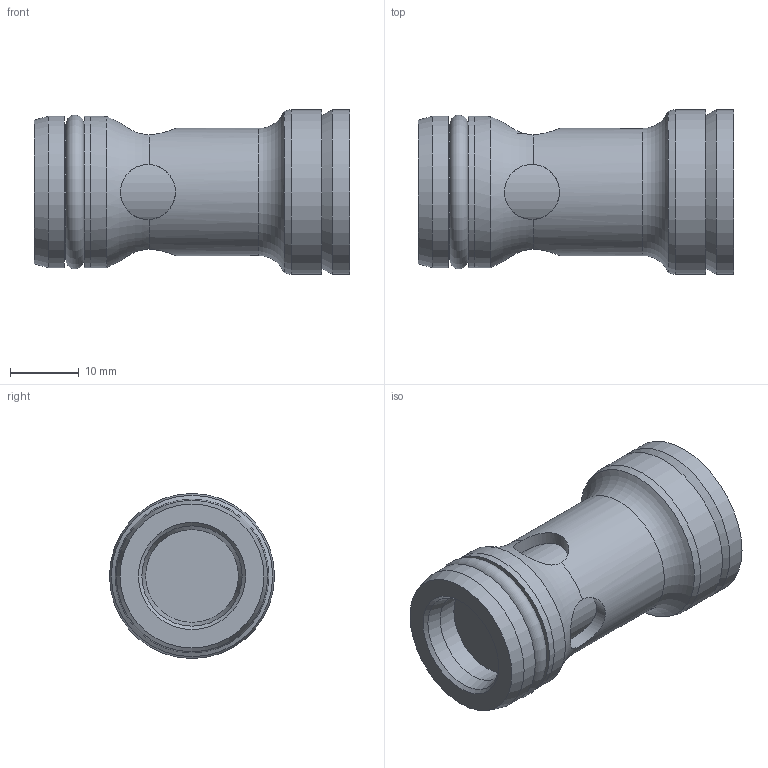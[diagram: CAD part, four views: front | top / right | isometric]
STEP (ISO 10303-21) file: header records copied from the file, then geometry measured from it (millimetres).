
FILE_DESCRIPTION(/* description */ (''),/* implementation_level */ '2;1');
FILE_NAME(/* name */ 'M-SR15插入式单向阀.prt.stp',/* time_stamp */ '2022-03-30T19:10:22+08:00',/* author */ (''),/* organization */ (''),/* preprocessor_version */ 'ST-DEVELOPER v16.7',/* originating_system */ 'SIEMENS PLM Software NX 12.0',/* authorisation */ '');
FILE_SCHEMA (('AUTOMOTIVE_DESIGN { 1 0 10303 214 3 1 1 1 }'));
Length unit declared in the file: millimetre
Products named in the file (1): M-SR15插入式单向阀
Bounding box: 45.8 x 24 x 24 mm (x, y, z)
Volume: 13711.2 mm3; surface area: 6756.6 mm2
Topology: 4 solids, 4 shells, 42 faces, 92 edges, 58 vertices
Faces by surface type: cylinder 17, plane 13, cone 7, torus 5
Full cylindrical faces by diameter (mm): 6 x1, 8 x4, 9.8 x1, 13.5 x1, 14.5 x1, 14.8 x1, 17.9 x2, 18.5 x1, 22 x3, 24 x2
Entity records: 1244 total; most frequent: CARTESIAN_POINT 294, DIRECTION 156, ORIENTED_EDGE 102, EDGE_LOOP 84, FACE_BOUND 83, AXIS2_PLACEMENT_3D 78, EDGE_CURVE 51, VERTEX_POINT 48
